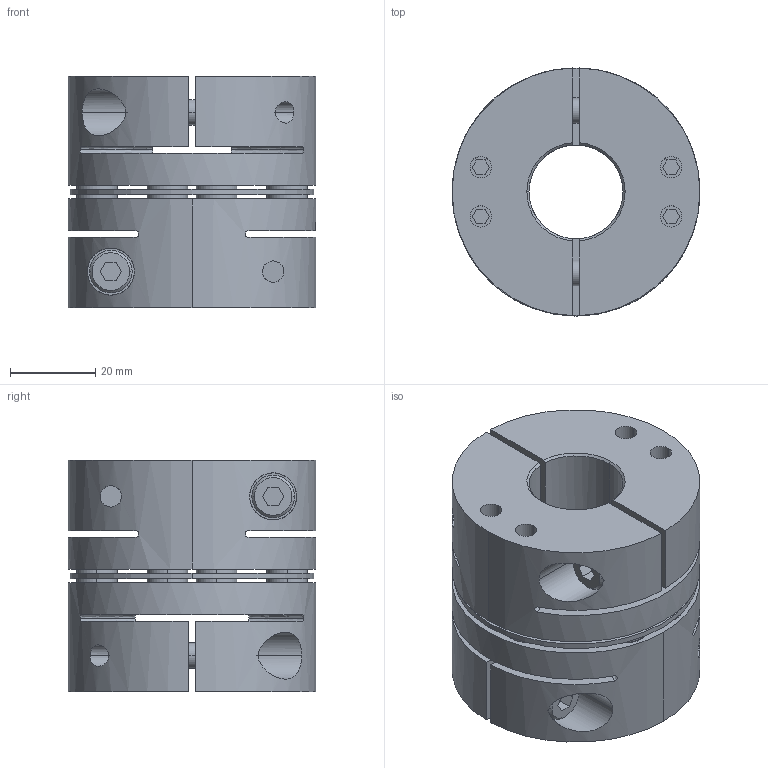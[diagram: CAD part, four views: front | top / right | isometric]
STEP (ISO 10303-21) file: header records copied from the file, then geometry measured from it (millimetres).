
FILE_DESCRIPTION((''),'2;1');
FILE_NAME('TAS-58C-22×30.stp','2022-11-14T22:24:09',(''),(''),'AutoCAD STEP 2000i','AutoCAD 2000i',', , ');
FILE_SCHEMA(('CONFIG_CONTROL_DESIGN'));
Length unit declared in the file: millimetre
Products named in the file (7): TAS-58C-22×22; 忣兜1; TA58C-22-2; CAP-M6×20; TA58C-22; TA58C-12-2; TA58C-12
Assembly tree (9 placements, depth 3):
  TAS-58C-22×22
    忣兜1
    TA58C-22-2
      CAP-M6×20
    TA58C-22
      CAP-M6×20
    TA58C-12-2
      CAP-M6×20
    TA58C-12
      CAP-M6×20
Bounding box: 58 x 58 x 54.25 mm (x, y, z)
Volume: 95772 mm3; surface area: 40339.9 mm2
Topology: 1 solids, 1 shells, 360 faces, 903 edges, 645 vertices
Faces by surface type: plane 160, cylinder 148, cone 36, bspline 16
Entity records: 12875 total; most frequent: CARTESIAN_POINT 3843, DIRECTION 1936, ORIENTED_EDGE 1720, EDGE_CURVE 860, AXIS2_PLACEMENT_3D 735, VERTEX_POINT 564, VECTOR 466, LINE 466
